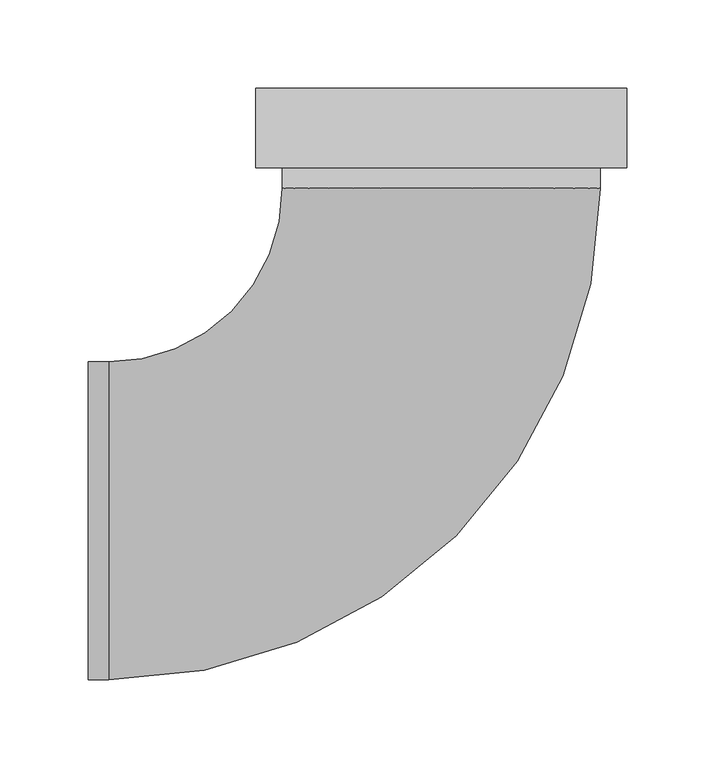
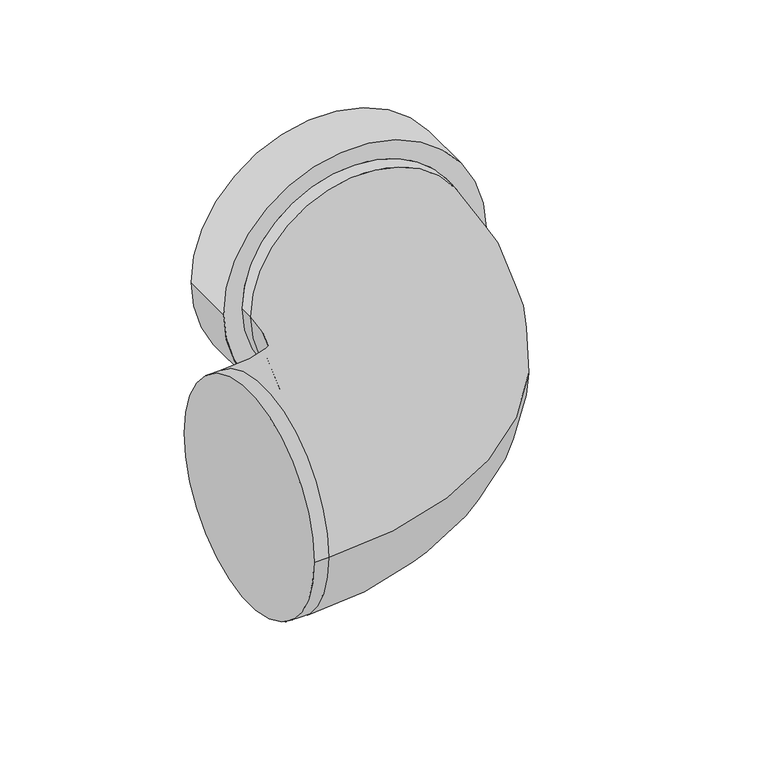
"""IFC4 building model written with IfcOpenShell, lengths in millimetres: duct fitting geometry, NLRS_57_DUF_UN_bend EPP_M&G : ø125 - ø180."""

from ifc_helpers import new_model, si_unit, point, frame, origin, origin_2d, place, context, project, spatial, circle_curve, ellipse_curve, trimmed, segment, composite_curve, outline, extrude, source, transform, mapped, element, save
from ifc_brep_helpers import plane_surface, cylinder_surface, revolved_surface, advanced_brep


def duct_fitting_9748606f(model_context):
    return source(origin(), model_context, "Body", "SolidModel", [
        advanced_brep(
        [(-200.0, -90.0, 0.0), (-200.0, 90.0, 0.0), (-188.5, -90.0, 0.0), (-188.5, 90.0, 0.0), (-90.0, 188.5, 0.0), (90.0, 188.5, 0.0), (90.0, 200.0, 0.0), (-90.0, 200.0, 0.0)],
        [
            (0, 1, circle_curve(frame((-200.0, 0.0, 0.0), z_axis=(-1.0, 0.0, 0.0), x_axis=(0.0, 1.0, 0.0)), 90.0)),
            (1, 0, circle_curve(frame((-200.0, 0.0, 0.0), z_axis=(-1.0, 0.0, 0.0), x_axis=(0.0, 1.0, 0.0)), 90.0)),
            (0, 2),
            (2, 3, circle_curve(frame((-188.5, 0.0, 0.0), z_axis=(-1.0, 0.0, 0.0), x_axis=(0.0, 1.0, 0.0)), 90.0)),
            (3, 1),
            (3, 2, circle_curve(frame((-188.5, 0.0, 0.0), z_axis=(-1.0, 0.0, 0.0), x_axis=(0.0, 1.0, 0.0)), 90.0)),
            (4, 3, circle_curve(frame((-188.5, 188.5, 0.0), z_axis=(0.0, 0.0, -1.0), x_axis=(0.0, -1.0, 0.0)), 98.5)),
            (2, 5, circle_curve(frame((-188.5, 188.5, 0.0), z_axis=(0.0, 0.0, 1.0), x_axis=(0.0, -1.0, 0.0)), 278.5)),
            (5, 4, circle_curve(frame((0.0, 188.5, 0.0), z_axis=(0.0, -1.0, 0.0), x_axis=(-1.0, 0.0, 0.0)), 90.0)),
            (4, 5, circle_curve(frame((0.0, 188.5, 0.0), z_axis=(0.0, -1.0, 0.0), x_axis=(-1.0, 0.0, 0.0)), 90.0)),
            (6, 7, circle_curve(frame((0.0, 200.0, 0.0), z_axis=(0.0, 1.0, 0.0), x_axis=(-1.0, 0.0, 0.0)), 90.0)),
            (7, 6, circle_curve(frame((0.0, 200.0, 0.0), z_axis=(0.0, 1.0, 0.0), x_axis=(-1.0, 0.0, 0.0)), 90.0)),
            (5, 6),
            (7, 4),
        ],
        [
            plane_surface(frame((-200.0, 0.0, 0.0), z_axis=(-1.0, 0.0, 0.0), x_axis=(0.0, 0.0, 1.0))),
            cylinder_surface(frame((-200.0, 0.0, 0.0), z_axis=(-1.0, 0.0, 0.0), x_axis=(0.0, 1.0, 0.0)), 90.0),
            revolved_surface(trimmed(ellipse_curve(frame((-188.5, 0.0, 0.0), z_axis=(-1.0, 0.0, 0.0), x_axis=(0.0, 1.0, 0.0)), 90.0, 90.0), [point((-188.5, -90.0, 0.0))], [point((-188.5, 90.0, 0.0))], True, "CARTESIAN"), (-188.5, 188.5, 0.0), (0.0, 0.0, 1.0)),
            revolved_surface(trimmed(ellipse_curve(frame((-188.5, 0.0, 0.0), z_axis=(-1.0, 0.0, 0.0), x_axis=(0.0, 1.0, 0.0)), 90.0, 90.0), [point((-188.5, 90.0, 0.0))], [point((-188.5, -90.0, 0.0))], True, "CARTESIAN"), (-188.5, 188.5, 0.0), (0.0, 0.0, 1.0)),
            plane_surface(frame((0.0, 200.0, 0.0), z_axis=(0.0, 1.0, 0.0), x_axis=(0.0, 0.0, 1.0))),
            cylinder_surface(frame((0.0, 188.5, 0.0), z_axis=(0.0, -1.0, 0.0), x_axis=(-1.0, 0.0, 0.0)), 90.0),
        ],
        [
            (0, [[1, 2]]),
            (1, [[-1, 3, 4, 5]]),
            (1, [[-2, -5, 6, -3]]),
            (2, [[7, -4, 8, 9]]),
            (3, [[-8, -6, -7, 10]]),
            (4, [[11, 12]]),
            (5, [[-9, 13, -12, 14]]),
            (5, [[-10, -14, -11, -13]]),
        ],
    ),
        extrude(outline(composite_curve([segment(trimmed(circle_curve(origin_2d(), 105.0), [point((0.0, 105.0))], [point((0.0, -105.0))], False, "CARTESIAN"), True, "CONTINUOUS"), segment(trimmed(circle_curve(origin_2d(), 105.0), [point((0.0, -105.0))], [point((0.0, 105.0))], False, "CARTESIAN"), True, "CONTINUOUS")], self_intersect=False), holes=[composite_curve([segment(trimmed(circle_curve(origin_2d(), 90.0), [point((0.0, -90.0))], [point((0.0, 90.0))], True, "CARTESIAN"), True, "CONTINUOUS"), segment(trimmed(circle_curve(origin_2d(), 90.0), [point((0.0, 90.0))], [point((0.0, -90.0))], True, "CARTESIAN"), True, "CONTINUOUS")], self_intersect=False)]), frame((0.0, 200.0, 0.0), z_axis=(0.0, 1.0, 0.0), x_axis=(0.0, 0.0, 1.0)), (0.0, 0.0, 1.0), 45.0),
    ])


if __name__ == "__main__":
    model = new_model("IFC4")
    model_context = context("Model", 3, world=origin())
    ifc_project = project(units=[si_unit("LENGTHUNIT", "METRE", prefix="MILLI")], contexts=[model_context])
    site = spatial("IfcSite", under=ifc_project)
    building = spatial("IfcBuilding", under=site)
    placement = place(None, origin())
    duct_fitting_shape = duct_fitting_9748606f(model_context)
    element("IfcDuctFitting", 1, ObjectType="NLRS_57_DUF_UN_bend EPP_M&G : ø125 - ø180", at=placement, inside=building, context=model_context, shape_type="MappedRepresentation", body=[
        mapped(duct_fitting_shape, transform((0.0, 0.0, 0.0), x_axis=(1.0, 0.0, 0.0), y_axis=(0.0, 1.0, 0.0), z_axis=(0.0, 0.0, 1.0))),
    ])
    save(model, "model.ifc")
